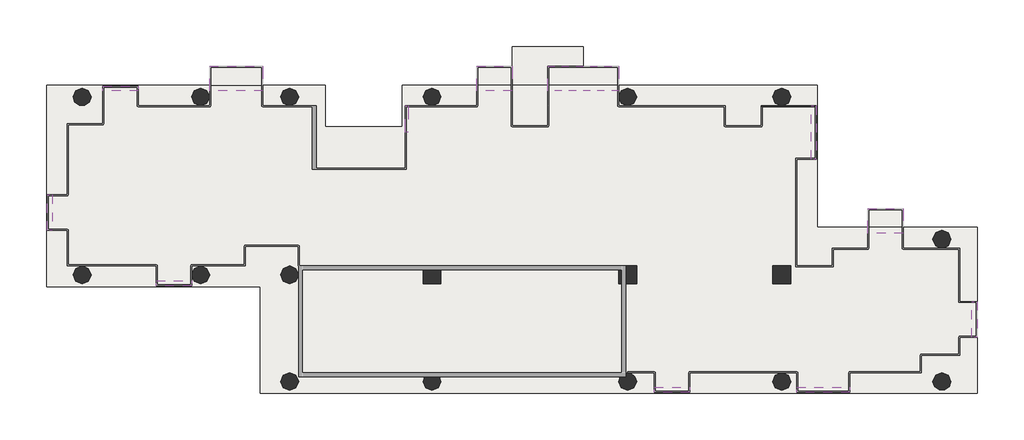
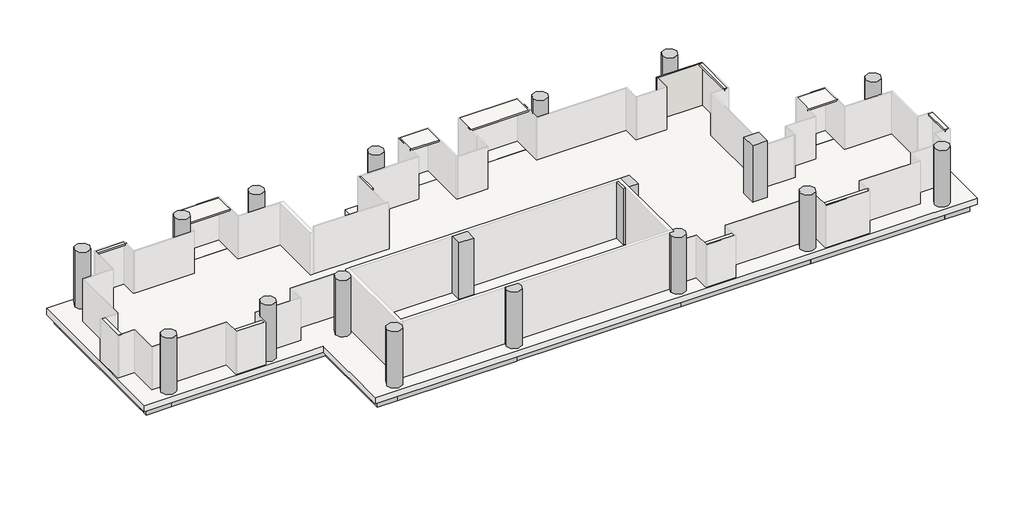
# One storey, part 2 of 2: 40 slabs, 25 beams, 18 columns, 1 wall.
"""IFC4 building model written with IfcOpenShell, lengths in millimetres."""

from ifc_helpers import new_model, si_unit, point, frame, frame_2d, origin, place, context, project, spatial, polyline, circle_curve, trimmed, segment, composite_curve, outline, extrude, faceted_brep, transform, mapped, element, save
from ifc_brep_helpers import plane_surface, cylinder_surface, advanced_brep
from components import ajn_arc_ossature_rec_ba_700x600_5242ffbb, ajn_arc_ossature_rec_ba_700x600_213c05e2, ajn_arc_ossature_rec_ba_700x600_4d623bda, ajn_arc_ossature_rec_ba_700x600_c2a8f1af, ajn_arc_ossature_rec_ba_700x600_b2f97811, ajn_arc_ossature_rec_ba_700x600_e688680c, ajn_arc_ossature_rec_ba_700x600_8adee879, ajn_arc_ossature_rec_ba_700x600_6677e51c, ajn_arc_ossature_rec_ba_700x600_60e35d56, ajn_arc_ossature_rec_ba_700x600_9ae0f913, ajn_arc_ossature_rec_ba_700x600_5c14351b, ajn_arc_ossature_rec_ba_700x600_e883967f, ajn_arc_ossature_rec_ba_700x600_0984b03c, ajn_arc_ossature_rec_ba_700x600_78f846f2, ajn_arc_ossature_rec_ba_700x600_e869caa8, ajn_arc_ossature_rec_ba_700x600_0388eb48, ajn_arc_ossature_rec_ba_700x600_e143517c, ajn_arc_ossature_rec_ba_700x600_758f1bfa, ajn_arc_ossature_rec_ba_700x600_64ba80e1, ajn_arc_poteau_circulaire_232542dc

model = new_model("IFC4")

# Units and contexts
model_context = context("Model", 3, world=origin())
ifc_project = project(units=[si_unit("LENGTHUNIT", "METRE", prefix="MILLI")], contexts=[model_context])

# Site, building, storey
site = spatial("IfcSite", under=ifc_project)
building = spatial("IfcBuilding", under=site)
storey = spatial("IfcBuildingStorey", under=building, Name="TW-L 19", Elevation=67599.9999686)

# Beams
placement = place(None, origin())
ajn_arc_ossature_rec_ba_700x600_shape = ajn_arc_ossature_rec_ba_700x600_5242ffbb(model_context)
element("IfcBeam", 1, ObjectType="AJN-ARC-OSSATURE REC-BA : 700x600", at=placement, inside=storey, context=model_context, shape_type="MappedRepresentation", body=[
    mapped(ajn_arc_ossature_rec_ba_700x600_shape, transform((119350.0, 39300.0, 67049.9999686), x_axis=(-1.0, 0.0, 0.0), y_axis=(0.0, -1.0, 0.0), z_axis=(0.0, 0.0, 1.0))),
])
ajn_arc_ossature_rec_ba_700x600_2_shape = ajn_arc_ossature_rec_ba_700x600_213c05e2(model_context)
element("IfcBeam", 2, ObjectType="AJN-ARC-OSSATURE REC-BA : 700x600", at=placement, inside=storey, context=model_context, shape_type="MappedRepresentation", body=[
    mapped(ajn_arc_ossature_rec_ba_700x600_2_shape, transform((100900.0, 34800.0, 67049.9999686), x_axis=(0.0, -1.0, 0.0), y_axis=(1.0, 0.0, 0.0), z_axis=(0.0, 0.0, 1.0))),
])
ajn_arc_ossature_rec_ba_700x600_3_shape = ajn_arc_ossature_rec_ba_700x600_4d623bda(model_context)
element("IfcBeam", 3, ObjectType="AJN-ARC-OSSATURE REC-BA : 700x600", at=placement, inside=storey, context=model_context, shape_type="MappedRepresentation", body=[
    mapped(ajn_arc_ossature_rec_ba_700x600_3_shape, transform((112150.0, 24900.0, 67049.9999686), x_axis=(1.0, 0.0, 0.0), y_axis=(0.0, 1.0, 0.0), z_axis=(0.0, 0.0, 1.0))),
])
ajn_arc_ossature_rec_ba_700x600_4_shape = ajn_arc_ossature_rec_ba_700x600_c2a8f1af(model_context)
element("IfcBeam", 4, ObjectType="AJN-ARC-OSSATURE REC-BA : 700x600", at=placement, inside=storey, context=model_context, shape_type="MappedRepresentation", body=[
    mapped(ajn_arc_ossature_rec_ba_700x600_4_shape, transform((116200.0, 24900.0, 67049.9999686), x_axis=(1.0, 0.0, 0.0), y_axis=(0.0, 1.0, 0.0), z_axis=(0.0, 0.0, 1.0))),
])
ajn_arc_ossature_rec_ba_700x600_5_shape = ajn_arc_ossature_rec_ba_700x600_b2f97811(model_context)
element("IfcBeam", 5, ObjectType="AJN-ARC-OSSATURE REC-BA : 700x600", at=placement, inside=storey, context=model_context, shape_type="MappedRepresentation", body=[
    mapped(ajn_arc_ossature_rec_ba_700x600_5_shape, transform((106900.0, 30300.0, 67049.9999686), x_axis=(1.0, 0.0, 0.0), y_axis=(0.0, 1.0, 0.0), z_axis=(0.0, 0.0, 1.0))),
])
ajn_arc_ossature_rec_ba_700x600_6_shape = ajn_arc_ossature_rec_ba_700x600_e688680c(model_context)
element("IfcBeam", 6, ObjectType="AJN-ARC-OSSATURE REC-BA : 700x600", at=placement, inside=storey, context=model_context, shape_type="MappedRepresentation", body=[
    mapped(ajn_arc_ossature_rec_ba_700x600_6_shape, transform((111700.0, 27600.0, 67049.9999686), x_axis=(0.0, -1.0, 0.0), y_axis=(1.0, 0.0, 0.0), z_axis=(0.0, 0.0, 1.0))),
])
ajn_arc_ossature_rec_ba_700x600_7_shape = ajn_arc_ossature_rec_ba_700x600_8adee879(model_context)
element("IfcBeam", 7, ObjectType="AJN-ARC-OSSATURE REC-BA : 700x600", at=placement, inside=storey, context=model_context, shape_type="MappedRepresentation", body=[
    mapped(ajn_arc_ossature_rec_ba_700x600_7_shape, transform((124750.0, 24900.0, 67049.9999686), x_axis=(1.0, 0.0, 0.0), y_axis=(0.0, 1.0, 0.0), z_axis=(0.0, 0.0, 1.0))),
])
element("IfcBeam", 8, ObjectType="AJN-ARC-OSSATURE REC-BA : 700x600", at=placement, inside=storey, context=model_context, shape_type="MappedRepresentation", body=[
    mapped(ajn_arc_ossature_rec_ba_700x600_7_shape, transform((124750.0, 39300.0, 67049.9999686), x_axis=(-1.0, 0.0, 0.0), y_axis=(0.0, -1.0, 0.0), z_axis=(0.0, 0.0, 1.0))),
])
ajn_arc_ossature_rec_ba_700x600_8_shape = ajn_arc_ossature_rec_ba_700x600_6677e51c(model_context)
element("IfcBeam", 9, ObjectType="AJN-ARC-OSSATURE REC-BA : 700x600", at=placement, inside=storey, context=model_context, shape_type="MappedRepresentation", body=[
    mapped(ajn_arc_ossature_rec_ba_700x600_8_shape, transform((133600.0, 24900.0, 67049.9999686), x_axis=(1.0, 0.0, 0.0), y_axis=(0.0, 1.0, 0.0), z_axis=(0.0, 0.0, 1.0))),
])
ajn_arc_ossature_rec_ba_700x600_9_shape = ajn_arc_ossature_rec_ba_700x600_60e35d56(model_context)
element("IfcBeam", 10, ObjectType="AJN-ARC-OSSATURE REC-BA : 700x600", at=placement, inside=storey, context=model_context, shape_type="MappedRepresentation", body=[
    mapped(ajn_arc_ossature_rec_ba_700x600_9_shape, transform((141550.0, 24900.0, 67049.9999686), x_axis=(1.0, 0.0, 0.0), y_axis=(0.0, 1.0, 0.0), z_axis=(0.0, 0.0, 1.0))),
])
ajn_arc_ossature_rec_ba_700x600_10_shape = ajn_arc_ossature_rec_ba_700x600_9ae0f913(model_context)
element("IfcBeam", 11, ObjectType="AJN-ARC-OSSATURE REC-BA : 700x600", at=placement, inside=storey, context=model_context, shape_type="MappedRepresentation", body=[
    mapped(ajn_arc_ossature_rec_ba_700x600_10_shape, transform((146200.0, 24900.0, 67049.9999686), x_axis=(1.0, 0.0, 0.0), y_axis=(0.0, 1.0, 0.0), z_axis=(0.0, 0.0, 1.0))),
])
element("IfcBeam", 12, ObjectType="AJN-ARC-OSSATURE REC-BA : 700x600", at=placement, inside=storey, context=model_context, shape_type="MappedRepresentation", body=[
    mapped(ajn_arc_ossature_rec_ba_700x600_10_shape, transform((101500.0, 39300.0, 67049.9999686), x_axis=(-1.0, 0.0, 0.0), y_axis=(0.0, -1.0, 0.0), z_axis=(0.0, 0.0, 1.0))),
])
ajn_arc_ossature_rec_ba_700x600_11_shape = ajn_arc_ossature_rec_ba_700x600_5c14351b(model_context)
element("IfcBeam", 13, ObjectType="AJN-ARC-OSSATURE REC-BA : 700x600", at=placement, inside=storey, context=model_context, shape_type="MappedRepresentation", body=[
    mapped(ajn_arc_ossature_rec_ba_700x600_11_shape, transform((146800.0, 28500.0, 67049.9999686), x_axis=(0.0, 1.0, 0.0), y_axis=(-1.0, 0.0, 0.0), z_axis=(0.0, 0.0, 1.0))),
])
element("IfcBeam", 14, ObjectType="AJN-ARC-OSSATURE REC-BA : 700x600", at=placement, inside=storey, context=model_context, shape_type="MappedRepresentation", body=[
    mapped(ajn_arc_ossature_rec_ba_700x600_11_shape, transform((138700.0, 35700.0, 67049.9999686), x_axis=(0.0, 1.0, 0.0), y_axis=(-1.0, 0.0, 0.0), z_axis=(0.0, 0.0, 1.0))),
])
ajn_arc_ossature_rec_ba_700x600_12_shape = ajn_arc_ossature_rec_ba_700x600_e883967f(model_context)
element("IfcBeam", 15, ObjectType="AJN-ARC-OSSATURE REC-BA : 700x600", at=placement, inside=storey, context=model_context, shape_type="MappedRepresentation", body=[
    mapped(ajn_arc_ossature_rec_ba_700x600_12_shape, transform((146200.0, 32100.0, 67049.9999686), x_axis=(-1.0, 0.0, 0.0), y_axis=(0.0, -1.0, 0.0), z_axis=(0.0, 0.0, 1.0))),
])
element("IfcBeam", 16, ObjectType="AJN-ARC-OSSATURE REC-BA : 700x600", at=placement, inside=storey, context=model_context, shape_type="MappedRepresentation", body=[
    mapped(ajn_arc_ossature_rec_ba_700x600_12_shape, transform((138100.0, 39300.0, 67049.9999686), x_axis=(-1.0, 0.0, 0.0), y_axis=(0.0, -1.0, 0.0), z_axis=(0.0, 0.0, 1.0))),
])
element("IfcBeam", 17, ObjectType="AJN-ARC-OSSATURE REC-BA : 700x600", at=placement, inside=storey, context=model_context, shape_type="MappedRepresentation", body=[
    mapped(ajn_arc_ossature_rec_ba_700x600_12_shape, transform((113200.0, 39300.0, 67049.9999686), x_axis=(-1.0, 0.0, 0.0), y_axis=(0.0, -1.0, 0.0), z_axis=(0.0, 0.0, 1.0))),
])
element("IfcBeam", 18, ObjectType="AJN-ARC-OSSATURE REC-BA : 700x600", at=placement, inside=storey, context=model_context, shape_type="MappedRepresentation", body=[
    mapped(ajn_arc_ossature_rec_ba_700x600_12_shape, transform((101500.0, 30300.0, 67049.9999686), x_axis=(1.0, 0.0, 0.0), y_axis=(0.0, 1.0, 0.0), z_axis=(0.0, 0.0, 1.0))),
])
ajn_arc_ossature_rec_ba_700x600_13_shape = ajn_arc_ossature_rec_ba_700x600_0984b03c(model_context)
element("IfcBeam", 19, ObjectType="AJN-ARC-OSSATURE REC-BA : 700x600", at=placement, inside=storey, context=model_context, shape_type="MappedRepresentation", body=[
    mapped(ajn_arc_ossature_rec_ba_700x600_13_shape, transform((142150.0, 32100.0, 67049.9999686), x_axis=(-1.0, 0.0, 0.0), y_axis=(0.0, -1.0, 0.0), z_axis=(0.0, 0.0, 1.0))),
])
ajn_arc_ossature_rec_ba_700x600_14_shape = ajn_arc_ossature_rec_ba_700x600_78f846f2(model_context)
element("IfcBeam", 20, ObjectType="AJN-ARC-OSSATURE REC-BA : 700x600", at=placement, inside=storey, context=model_context, shape_type="MappedRepresentation", body=[
    mapped(ajn_arc_ossature_rec_ba_700x600_14_shape, transform((133600.0, 39300.0, 67049.9999686), x_axis=(-1.0, 0.0, 0.0), y_axis=(0.0, -1.0, 0.0), z_axis=(0.0, 0.0, 1.0))),
])
ajn_arc_ossature_rec_ba_700x600_15_shape = ajn_arc_ossature_rec_ba_700x600_e869caa8(model_context)
element("IfcBeam", 21, ObjectType="AJN-ARC-OSSATURE REC-BA : 700x600", at=placement, inside=storey, context=model_context, shape_type="MappedRepresentation", body=[
    mapped(ajn_arc_ossature_rec_ba_700x600_15_shape, transform((118900.0, 38250.0, 67049.9999686), x_axis=(0.0, -1.0, 0.0), y_axis=(1.0, 0.0, 0.0), z_axis=(0.0, 0.0, 1.0))),
])
ajn_arc_ossature_rec_ba_700x600_16_shape = ajn_arc_ossature_rec_ba_700x600_0388eb48(model_context)
element("IfcBeam", 22, ObjectType="AJN-ARC-OSSATURE REC-BA : 700x600", at=placement, inside=storey, context=model_context, shape_type="MappedRepresentation", body=[
    mapped(ajn_arc_ossature_rec_ba_700x600_16_shape, transform((110350.0, 39300.0, 67049.9999686), x_axis=(-1.0, 0.0, 0.0), y_axis=(0.0, -1.0, 0.0), z_axis=(0.0, 0.0, 1.0))),
])
ajn_arc_ossature_rec_ba_700x600_17_shape = ajn_arc_ossature_rec_ba_700x600_e143517c(model_context)
element("IfcBeam", 23, ObjectType="AJN-ARC-OSSATURE REC-BA : 700x600", at=placement, inside=storey, context=model_context, shape_type="MappedRepresentation", body=[
    mapped(ajn_arc_ossature_rec_ba_700x600_17_shape, transform((105100.0, 39300.0, 67049.9999686), x_axis=(-1.0, 0.0, 0.0), y_axis=(0.0, -1.0, 0.0), z_axis=(0.0, 0.0, 1.0))),
])
ajn_arc_ossature_rec_ba_700x600_18_shape = ajn_arc_ossature_rec_ba_700x600_758f1bfa(model_context)
element("IfcBeam", 24, ObjectType="AJN-ARC-OSSATURE REC-BA : 700x600", at=placement, inside=storey, context=model_context, shape_type="MappedRepresentation", body=[
    mapped(ajn_arc_ossature_rec_ba_700x600_18_shape, transform((116350.0, 37200.0, 67049.9999686), x_axis=(-1.0, 0.0, 0.0), y_axis=(0.0, -1.0, 0.0), z_axis=(0.0, 0.0, 1.0))),
])
ajn_arc_ossature_rec_ba_700x600_19_shape = ajn_arc_ossature_rec_ba_700x600_64ba80e1(model_context)
element("IfcBeam", 25, ObjectType="AJN-ARC-OSSATURE REC-BA : 700x600", at=placement, inside=storey, context=model_context, shape_type="MappedRepresentation", body=[
    mapped(ajn_arc_ossature_rec_ba_700x600_19_shape, transform((113800.0, 38250.0, 67049.9999686), x_axis=(0.0, 1.0, 0.0), y_axis=(-1.0, 0.0, 0.0), z_axis=(0.0, 0.0, 1.0))),
])

# Columns
element("IfcColumn", 26, ObjectType="AJN-ARC-POTEAU CIRCULAIRE : ø90", at=placement, inside=storey, context=model_context, shape_type="SweptSolid", body=[
    extrude(outline(composite_curve([segment(trimmed(circle_curve(frame_2d((102100.0, 30300.0)), 450.0), [point((101650.0, 30300.0))], [point((102550.0, 30300.0))], False, "CARTESIAN"), True, "CONTINUOUS"), segment(trimmed(circle_curve(frame_2d((102100.0, 30300.0)), 450.0), [point((102550.0, 30300.0))], [point((101650.0, 30300.0))], False, "CARTESIAN"), True, "CONTINUOUS")], self_intersect=False)), frame((0.0, 0.0, 67599.9999686), z_axis=(0.0, 0.0, 1.0), x_axis=(1.0, 0.0, 0.0)), (0.0, 0.0, 1.0), 3600.0),
])
element("IfcColumn", 27, ObjectType="AJN-ARC-POTEAU CIRCULAIRE : ø90", at=placement, inside=storey, context=model_context, shape_type="SweptSolid", body=[
    extrude(outline(composite_curve([segment(trimmed(circle_curve(frame_2d((108100.0, 30300.0)), 450.0), [point((107650.0, 30300.0))], [point((108550.0, 30300.0))], False, "CARTESIAN"), True, "CONTINUOUS"), segment(trimmed(circle_curve(frame_2d((108100.0, 30300.0)), 450.0), [point((108550.0, 30300.0))], [point((107650.0, 30300.0))], False, "CARTESIAN"), True, "CONTINUOUS")], self_intersect=False)), frame((0.0, 0.0, 67599.9999686), z_axis=(0.0, 0.0, 1.0), x_axis=(1.0, 0.0, 0.0)), (0.0, 0.0, 1.0), 3600.0),
])
element("IfcColumn", 28, ObjectType="AJN-ARC-POTEAU CIRCULAIRE : ø90", at=placement, inside=storey, context=model_context, shape_type="SweptSolid", body=[
    extrude(outline(composite_curve([segment(trimmed(circle_curve(frame_2d((108100.0, 39300.0)), 450.0), [point((107650.0, 39300.0))], [point((108550.0, 39300.0))], False, "CARTESIAN"), True, "CONTINUOUS"), segment(trimmed(circle_curve(frame_2d((108100.0, 39300.0)), 450.0), [point((108550.0, 39300.0))], [point((107650.0, 39300.0))], False, "CARTESIAN"), True, "CONTINUOUS")], self_intersect=False)), frame((0.0, 0.0, 67599.9999686), z_axis=(0.0, 0.0, 1.0), x_axis=(1.0, 0.0, 0.0)), (0.0, 0.0, 1.0), 3600.0),
])
element("IfcColumn", 29, ObjectType="AJN-ARC-POTEAU CIRCULAIRE : ø90", at=placement, inside=storey, context=model_context, shape_type="SweptSolid", body=[
    extrude(outline(composite_curve([segment(trimmed(circle_curve(frame_2d((112600.0, 39300.0)), 450.0), [point((112150.0, 39300.0))], [point((113050.0, 39300.0))], False, "CARTESIAN"), True, "CONTINUOUS"), segment(trimmed(circle_curve(frame_2d((112600.0, 39300.0)), 450.0), [point((113050.0, 39300.0))], [point((112150.0, 39300.0))], False, "CARTESIAN"), True, "CONTINUOUS")], self_intersect=False)), frame((0.0, 0.0, 67599.9999686), z_axis=(0.0, 0.0, 1.0), x_axis=(1.0, 0.0, 0.0)), (0.0, 0.0, 1.0), 3600.0),
])
element("IfcColumn", 30, ObjectType="AJN-ARC-POTEAU CIRCULAIRE : ø90", at=placement, inside=storey, context=model_context, shape_type="SweptSolid", body=[
    extrude(outline(composite_curve([segment(trimmed(circle_curve(frame_2d((112600.0, 30300.0)), 450.0), [point((112150.0, 30300.0))], [point((113050.0, 30300.0))], False, "CARTESIAN"), True, "CONTINUOUS"), segment(trimmed(circle_curve(frame_2d((112600.0, 30300.0)), 450.0), [point((113050.0, 30300.0))], [point((112150.0, 30300.0))], False, "CARTESIAN"), True, "CONTINUOUS")], self_intersect=False)), frame((0.0, 0.0, 67599.9999686), z_axis=(0.0, 0.0, 1.0), x_axis=(1.0, 0.0, 0.0)), (0.0, 0.0, 1.0), 3600.0),
])
element("IfcColumn", 31, ObjectType="AJN-ARC-POTEAU CIRCULAIRE : ø90", at=placement, inside=storey, context=model_context, shape_type="SweptSolid", body=[
    extrude(outline(composite_curve([segment(trimmed(circle_curve(frame_2d((112600.0, 24900.0)), 450.0), [point((112150.0, 24900.0))], [point((113050.0, 24900.0))], False, "CARTESIAN"), True, "CONTINUOUS"), segment(trimmed(circle_curve(frame_2d((112600.0, 24900.0)), 450.0), [point((113050.0, 24900.0))], [point((112150.0, 24900.0))], False, "CARTESIAN"), True, "CONTINUOUS")], self_intersect=False)), frame((0.0, 0.0, 67599.9999686), z_axis=(0.0, 0.0, 1.0), x_axis=(1.0, 0.0, 0.0)), (0.0, 0.0, 1.0), 3600.0),
])
element("IfcColumn", 32, ObjectType="AJN-ARC-POTEAU CIRCULAIRE : ø90", at=placement, inside=storey, context=model_context, shape_type="SweptSolid", body=[
    extrude(outline(composite_curve([segment(trimmed(circle_curve(frame_2d((119800.0, 24900.0)), 450.0), [point((120250.0, 24900.0))], [point((119350.0, 24900.0))], False, "CARTESIAN"), True, "CONTINUOUS"), segment(trimmed(circle_curve(frame_2d((119800.0, 24900.0)), 450.0), [point((119350.0, 24900.0))], [point((119425.8342613, 25150.0))], False, "CARTESIAN"), True, "CONTINUOUS"), segment(polyline([(119425.8342613, 25150.0), (120174.1657387, 25150.0)]), True, "CONTINUOUS"), segment(trimmed(circle_curve(frame_2d((119800.0, 24900.0)), 450.0), [point((120174.1657387, 25150.0))], [point((120250.0, 24900.0))], False, "CARTESIAN"), True, "CONTINUOUS")], self_intersect=False)), frame((0.0, 0.0, 67599.9999686), z_axis=(0.0, 0.0, 1.0), x_axis=(1.0, 0.0, 0.0)), (0.0, 0.0, 1.0), 3600.0),
])
element("IfcColumn", 33, ObjectType="AJN-ARC-POTEAU CIRCULAIRE : ø90", at=placement, inside=storey, context=model_context, shape_type="SweptSolid", body=[
    extrude(outline(composite_curve([segment(trimmed(circle_curve(frame_2d((119800.0, 39300.0)), 450.0), [point((119350.0, 39300.0))], [point((120250.0, 39300.0))], False, "CARTESIAN"), True, "CONTINUOUS"), segment(trimmed(circle_curve(frame_2d((119800.0, 39300.0)), 450.0), [point((120250.0, 39300.0))], [point((119350.0, 39300.0))], False, "CARTESIAN"), True, "CONTINUOUS")], self_intersect=False)), frame((0.0, 0.0, 67599.9999686), z_axis=(0.0, 0.0, 1.0), x_axis=(1.0, 0.0, 0.0)), (0.0, 0.0, 1.0), 3600.0),
])
element("IfcColumn", 34, ObjectType="AJN-ARC-POTEAU CIRCULAIRE : ø90", at=placement, inside=storey, context=model_context, shape_type="SweptSolid", body=[
    extrude(outline(composite_curve([segment(trimmed(circle_curve(frame_2d((129700.0, 39300.0)), 450.0), [point((129250.0, 39300.0))], [point((130150.0, 39300.0))], False, "CARTESIAN"), True, "CONTINUOUS"), segment(trimmed(circle_curve(frame_2d((129700.0, 39300.0)), 450.0), [point((130150.0, 39300.0))], [point((129250.0, 39300.0))], False, "CARTESIAN"), True, "CONTINUOUS")], self_intersect=False)), frame((0.0, 0.0, 67599.9999686), z_axis=(0.0, 0.0, 1.0), x_axis=(1.0, 0.0, 0.0)), (0.0, 0.0, 1.0), 3600.0),
])
element("IfcColumn", 35, ObjectType="AJN-ARC-POTEAU CIRCULAIRE : ø90", at=placement, inside=storey, context=model_context, shape_type="SweptSolid", body=[
    extrude(outline(composite_curve([segment(trimmed(circle_curve(frame_2d((129700.0, 24900.0)), 450.0), [point((130150.0, 24900.0))], [point((129250.0, 24900.0))], False, "CARTESIAN"), True, "CONTINUOUS"), segment(trimmed(circle_curve(frame_2d((129700.0, 24900.0)), 450.0), [point((129250.0, 24900.0))], [point((129325.8342613, 25150.0))], False, "CARTESIAN"), True, "CONTINUOUS"), segment(polyline([(129325.8342613, 25150.0), (129600.0, 25150.0), (129600.0, 25338.7482194)]), True, "CONTINUOUS"), segment(trimmed(circle_curve(frame_2d((129700.0, 24900.0)), 450.0), [point((129600.0, 25338.7482194))], [point((130150.0, 24900.0))], False, "CARTESIAN"), True, "CONTINUOUS")], self_intersect=False)), frame((0.0, 0.0, 67599.9999686), z_axis=(0.0, 0.0, 1.0), x_axis=(1.0, 0.0, 0.0)), (0.0, 0.0, 1.0), 3600.0),
])
element("IfcColumn", 36, ObjectType="AJN-ARC-POTEAU CIRCULAIRE : ø90", at=placement, inside=storey, context=model_context, shape_type="SweptSolid", body=[
    extrude(outline(composite_curve([segment(trimmed(circle_curve(frame_2d((137500.0, 39300.0)), 450.0), [point((137050.0, 39300.0))], [point((137950.0, 39300.0))], False, "CARTESIAN"), True, "CONTINUOUS"), segment(trimmed(circle_curve(frame_2d((137500.0, 39300.0)), 450.0), [point((137950.0, 39300.0))], [point((137050.0, 39300.0))], False, "CARTESIAN"), True, "CONTINUOUS")], self_intersect=False)), frame((0.0, 0.0, 67599.9999686), z_axis=(0.0, 0.0, 1.0), x_axis=(1.0, 0.0, 0.0)), (0.0, 0.0, 1.0), 3600.0),
])
element("IfcColumn", 37, ObjectType="AJN-ARC-POTEAU CIRCULAIRE : ø90", at=placement, inside=storey, context=model_context, shape_type="SweptSolid", body=[
    extrude(outline(composite_curve([segment(trimmed(circle_curve(frame_2d((137500.0, 24900.0)), 450.0), [point((137050.0, 24900.0))], [point((137950.0, 24900.0))], False, "CARTESIAN"), True, "CONTINUOUS"), segment(trimmed(circle_curve(frame_2d((137500.0, 24900.0)), 450.0), [point((137950.0, 24900.0))], [point((137050.0, 24900.0))], False, "CARTESIAN"), True, "CONTINUOUS")], self_intersect=False)), frame((0.0, 0.0, 67599.9999686), z_axis=(0.0, 0.0, 1.0), x_axis=(1.0, 0.0, 0.0)), (0.0, 0.0, 1.0), 3600.0),
])
element("IfcColumn", 38, ObjectType="AJN-ARC-POTEAU CIRCULAIRE : ø90", at=placement, inside=storey, context=model_context, shape_type="AdvancedBrep", body=[
    advanced_brep(
    [(145150.0, 32100.0, 67599.9999686), (146050.0, 32100.0, 67599.9999686), (145638.6089983, 31651.6593424, 67599.9999686), (145561.3910017, 31651.6593424, 67599.9999686), (145150.0, 32100.0, 71199.9999686), (146050.0, 32100.0, 71199.9999686), (145561.3910017, 31651.6593424, 70299.9999686), (145638.6089983, 31651.6593424, 70299.9999686)],
    [
        (0, 1, circle_curve(frame((145600.0, 32100.0, 67599.9999686), z_axis=(0.0, 0.0, -1.0), x_axis=(1.0, 0.0, 0.0)), 450.0)),
        (1, 2, circle_curve(frame((145600.0, 32100.0, 67599.9999686), z_axis=(0.0, 0.0, -1.0), x_axis=(1.0, 0.0, 0.0)), 450.0)),
        (2, 3),
        (3, 0, circle_curve(frame((145600.0, 32100.0, 67599.9999686), z_axis=(0.0, 0.0, -1.0), x_axis=(1.0, 0.0, 0.0)), 450.0)),
        (0, 4),
        (4, 5, circle_curve(frame((145600.0, 32100.0, 71199.9999686), z_axis=(0.0, 0.0, -1.0), x_axis=(1.0, 0.0, 0.0)), 450.0)),
        (5, 1),
        (5, 4, circle_curve(frame((145600.0, 32100.0, 71199.9999686), z_axis=(0.0, 0.0, -1.0), x_axis=(1.0, 0.0, 0.0)), 450.0)),
        (3, 6),
        (6, 7, circle_curve(frame((145600.0, 32100.0, 70299.9999686), z_axis=(0.0, 0.0, 1.0), x_axis=(1.0, 0.0, 0.0)), 450.0)),
        (7, 2),
        (7, 6),
    ],
    [
        plane_surface(frame((146050.0, 32100.0, 67599.9999686), z_axis=(0.0, 0.0, -1.0), x_axis=(0.0, -1.0, 0.0))),
        cylinder_surface(frame((145600.0, 32100.0, 67599.9999686), z_axis=(0.0, 0.0, 1.0), x_axis=(1.0, 0.0, 0.0)), 450.0),
        plane_surface(frame((146050.0, 32100.0, 71199.9999686), z_axis=(0.0, 0.0, 1.0), x_axis=(0.0, 1.0, 0.0))),
        plane_surface(frame((146472.681474, 31651.6593424, 67599.9999686), z_axis=(0.0, -1.0, 0.0), x_axis=(-1.0, 0.0, 0.0))),
        plane_surface(frame((143650.0, 31651.6593424, 70299.9999686), z_axis=(0.0, 0.0, -1.0), x_axis=(0.0, -1.0, 0.0))),
    ],
    [
        (0, [[1, 2, 3, 4]]),
        (1, [[-1, 5, 6, 7]]),
        (1, [[-7, 8, -5, -4, 9, 10, 11, -2]]),
        (2, [[-6, -8]]),
        (3, [[12, -9, -3, -11]]),
        (4, [[-12, -10]]),
    ],
),
])
ajn_arc_poteau_circulaire_shape = ajn_arc_poteau_circulaire_232542dc(model_context)
element("IfcColumn", 39, ObjectType="AJN-ARC-POTEAU CIRCULAIRE : ø90", at=placement, inside=storey, context=model_context, shape_type="MappedRepresentation", body=[
    mapped(ajn_arc_poteau_circulaire_shape, transform((102100.0, 39300.0, 0.0), x_axis=(1.0, 0.0, 0.0), y_axis=(0.0, 1.0, 0.0), z_axis=(0.0, 0.0, 1.0))),
])
element("IfcColumn", 40, ObjectType="AJN-ARC-POTEAU CIRCULAIRE : ø90", at=placement, inside=storey, context=model_context, shape_type="MappedRepresentation", body=[
    mapped(ajn_arc_poteau_circulaire_shape, transform((145600.0, 24900.0, 0.0), x_axis=(1.0, 0.0, 0.0), y_axis=(0.0, 1.0, 0.0), z_axis=(0.0, 0.0, 1.0))),
])
element("IfcColumn", 41, ObjectType="AJN-ARC-POTEAU RECTANGULAIRE : 900 mm x 900 mm", at=placement, inside=storey, context=model_context, shape_type="SweptSolid", body=[
    extrude(outline(polyline([(137950.0, 30750.0), (137950.0, 29850.0), (137050.0, 29850.0), (137050.0, 30750.0), (137950.0, 30750.0)])), frame((0.0, 0.0, 67599.9999686), z_axis=(0.0, 0.0, 1.0), x_axis=(1.0, 0.0, 0.0)), (0.0, 0.0, 1.0), 3600.0),
])
element("IfcColumn", 42, ObjectType="AJN-ARC-POTEAU RECTANGULAIRE : 900 mm x 900 mm", at=placement, inside=storey, context=model_context, shape_type="SweptSolid", body=[
    extrude(outline(polyline([(129400.0, 29850.0), (129250.0, 29850.0), (129250.0, 30550.0), (129400.0, 30550.0), (129400.0, 29850.0)])), frame((0.0, 0.0, 67599.9999686), z_axis=(0.0, 0.0, 1.0), x_axis=(1.0, 0.0, 0.0)), (0.0, 0.0, 1.0), 3600.0),
    extrude(outline(polyline([(130150.0, 30750.0), (130150.0, 29850.0), (129600.0, 29850.0), (129600.0, 30750.0), (130150.0, 30750.0)])), frame((0.0, 0.0, 67599.9999686), z_axis=(0.0, 0.0, 1.0), x_axis=(1.0, 0.0, 0.0)), (0.0, 0.0, 1.0), 3600.0),
])
element("IfcColumn", 43, ObjectType="AJN-ARC-POTEAU RECTANGULAIRE : 900 mm x 900 mm", at=placement, inside=storey, context=model_context, shape_type="SweptSolid", body=[
    extrude(outline(polyline([(120250.0, 29850.0), (119350.0, 29850.0), (119350.0, 30550.0), (120250.0, 30550.0), (120250.0, 29850.0)])), frame((0.0, 0.0, 67599.9999686), z_axis=(0.0, 0.0, 1.0), x_axis=(1.0, 0.0, 0.0)), (0.0, 0.0, 1.0), 3600.0),
])

# Slabs
element("IfcSlab", 44, ObjectType="AJN-ARC-SLAB-10cm", at=placement, inside=storey, context=model_context, shape_type="SweptSolid", body=[
    extrude(outline(polyline([(127463.0639015, 39900.0), (123863.0639015, 39900.0), (123863.0639015, 41850.0), (127463.0639015, 41850.0), (127463.0639015, 39900.0)])), frame((0.0, 0.0, 63900.0), z_axis=(0.0, 0.0, 1.0), x_axis=(1.0, 0.0, 0.0)), (0.0, 0.0, 1.0), 100.0),
])
element("IfcSlab", 45, ObjectType="AJN-ARC-SLAB-10cm", at=placement, inside=storey, context=model_context, shape_type="SweptSolid", body=[
    extrude(outline(polyline([(111250.0, 39900.0), (108550.0, 39900.0), (108550.0, 40850.0), (111250.0, 40850.0), (111250.0, 39900.0)])), frame((0.0, 0.0, 67499.9999686), z_axis=(0.0, 0.0, 1.0), x_axis=(1.0, 0.0, 0.0)), (0.0, 0.0, 1.0), 100.0),
])
element("IfcSlab", 46, ObjectType="AJN-ARC-SLAB-10cm", at=placement, inside=storey, context=model_context, shape_type="SweptSolid", body=[
    extrude(outline(polyline([(129250.0, 39900.0), (125650.0, 39900.0), (125650.0, 40850.0), (129250.0, 40850.0), (129250.0, 39900.0)])), frame((0.0, 0.0, 67499.9999686), z_axis=(0.0, 0.0, 1.0), x_axis=(1.0, 0.0, 0.0)), (0.0, 0.0, 1.0), 100.0),
])
element("IfcSlab", 47, ObjectType="AJN-ARC-SLAB-10cm", at=placement, inside=storey, context=model_context, shape_type="SweptSolid", body=[
    extrude(outline(polyline([(143650.0, 32700.0), (141850.0, 32700.0), (141850.0, 33651.6593424), (143650.0, 33651.6593424), (143650.0, 32700.0)])), frame((0.0, 0.0, 67499.9999686), z_axis=(0.0, 0.0, 1.0), x_axis=(1.0, 0.0, 0.0)), (0.0, 0.0, 1.0), 100.0),
])
element("IfcSlab", 48, ObjectType="AJN-ARC-SLAB-10cm", at=placement, inside=storey, context=model_context, shape_type="SweptSolid", body=[
    extrude(outline(polyline([(123860.049155, 39900.0), (122060.049155, 39900.0), (122060.049155, 40850.0), (123860.049155, 40850.0), (123860.049155, 39900.0)])), frame((0.0, 0.0, 67499.9999686), z_axis=(0.0, 0.0, 1.0), x_axis=(1.0, 0.0, 0.0)), (0.0, 0.0, 1.0), 100.0),
])
element("IfcSlab", 49, ObjectType="AJN-ARC-SLAB-10cm", at=placement, inside=storey, context=model_context, shape_type="SweptSolid", body=[
    extrude(outline(polyline([(123860.049155, 39900.0), (122060.049155, 39900.0), (122060.049155, 40850.0), (123860.049155, 40850.0), (123860.049155, 39900.0)])), frame((0.0, 0.0, 67499.9999686), z_axis=(0.0, 0.0, 1.0), x_axis=(1.0, 0.0, 0.0)), (0.0, 0.0, 1.0), 100.0),
])
element("IfcSlab", 50, ObjectType="AJN-ARC-SLAB-10cm", at=placement, inside=storey, context=model_context, shape_type="SweptSolid", body=[
    extrude(outline(polyline([(123860.049155, 39900.0), (122060.049155, 39900.0), (122060.049155, 40850.0), (123860.049155, 40850.0), (123860.049155, 39900.0)])), frame((0.0, 0.0, 67499.9999686), z_axis=(0.0, 0.0, 1.0), x_axis=(1.0, 0.0, 0.0)), (0.0, 0.0, 1.0), 100.0),
])
element("IfcSlab", 51, ObjectType="AJN-ARC-SLAB-10cm", at=placement, inside=storey, context=model_context, shape_type="SweptSolid", body=[
    extrude(outline(polyline([(123860.049155, 39900.0), (122060.049155, 39900.0), (122060.049155, 40850.0), (123860.049155, 40850.0), (123860.049155, 39900.0)])), frame((0.0, 0.0, 67499.9999686), z_axis=(0.0, 0.0, 1.0), x_axis=(1.0, 0.0, 0.0)), (0.0, 0.0, 1.0), 100.0),
])
element("IfcSlab", 52, ObjectType="AJN-ARC-SLAB-10cm", at=placement, inside=storey, context=model_context, shape_type="SweptSolid", body=[
    extrude(outline(polyline([(123860.049155, 39900.0), (122060.049155, 39900.0), (122060.049155, 40850.0), (123860.049155, 40850.0), (123860.049155, 39900.0)])), frame((0.0, 0.0, 67499.9999686), z_axis=(0.0, 0.0, 1.0), x_axis=(1.0, 0.0, 0.0)), (0.0, 0.0, 1.0), 100.0),
])
element("IfcSlab", 53, ObjectType="AJN-ARC-SLAB-10cm", at=placement, inside=storey, context=model_context, shape_type="SweptSolid", body=[
    extrude(outline(polyline([(123860.049155, 39900.0), (122060.049155, 39900.0), (122060.049155, 40850.0), (123860.049155, 40850.0), (123860.049155, 39900.0)])), frame((0.0, 0.0, 67499.9999686), z_axis=(0.0, 0.0, 1.0), x_axis=(1.0, 0.0, 0.0)), (0.0, 0.0, 1.0), 100.0),
])
element("IfcSlab", 54, ObjectType="AJN-ARC-SLAB-10cm", at=placement, inside=storey, context=model_context, shape_type="SweptSolid", body=[
    extrude(outline(polyline([(123860.049155, 39900.0), (122060.049155, 39900.0), (122060.049155, 40850.0), (123860.049155, 40850.0), (123860.049155, 39900.0)])), frame((0.0, 0.0, 67499.9999686), z_axis=(0.0, 0.0, 1.0), x_axis=(1.0, 0.0, 0.0)), (0.0, 0.0, 1.0), 100.0),
])
element("IfcSlab", 55, ObjectType="AJN-ARC-SLAB-10cm", at=placement, inside=storey, context=model_context, shape_type="SweptSolid", body=[
    extrude(outline(polyline([(123860.049155, 39900.0), (122060.049155, 39900.0), (122060.049155, 40850.0), (123860.049155, 40850.0), (123860.049155, 39900.0)])), frame((0.0, 0.0, 67499.9999686), z_axis=(0.0, 0.0, 1.0), x_axis=(1.0, 0.0, 0.0)), (0.0, 0.0, 1.0), 100.0),
])
element("IfcSlab", 56, ObjectType="AJN-ARC-SLAB-10cm", at=placement, inside=storey, context=model_context, shape_type="SweptSolid", body=[
    extrude(outline(polyline([(123860.049155, 39900.0), (122060.049155, 39900.0), (122060.049155, 40850.0), (123860.049155, 40850.0), (123860.049155, 39900.0)])), frame((0.0, 0.0, 67499.9999686), z_axis=(0.0, 0.0, 1.0), x_axis=(1.0, 0.0, 0.0)), (0.0, 0.0, 1.0), 100.0),
])
element("IfcSlab", 57, ObjectType="AJN-ARC-SLAB-10cm", at=placement, inside=storey, context=model_context, shape_type="SweptSolid", body=[
    extrude(outline(polyline([(123860.049155, 39900.0), (122060.049155, 39900.0), (122060.049155, 40850.0), (123860.049155, 40850.0), (123860.049155, 39900.0)])), frame((0.0, 0.0, 67499.9999686), z_axis=(0.0, 0.0, 1.0), x_axis=(1.0, 0.0, 0.0)), (0.0, 0.0, 1.0), 100.0),
])
element("IfcSlab", 58, ObjectType="AJN-ARC-SLAB-10cm", at=placement, inside=storey, context=model_context, shape_type="SweptSolid", body=[
    extrude(outline(polyline([(123860.049155, 39900.0), (122060.049155, 39900.0), (122060.049155, 40850.0), (123860.049155, 40850.0), (123860.049155, 39900.0)])), frame((0.0, 0.0, 67499.9999686), z_axis=(0.0, 0.0, 1.0), x_axis=(1.0, 0.0, 0.0)), (0.0, 0.0, 1.0), 100.0),
])
element("IfcSlab", 59, ObjectType="AJN-ARC-SLAB-10cm", at=placement, inside=storey, context=model_context, shape_type="SweptSolid", body=[
    extrude(outline(polyline([(123860.049155, 39900.0), (122060.049155, 39900.0), (122060.049155, 40850.0), (123860.049155, 40850.0), (123860.049155, 39900.0)])), frame((0.0, 0.0, 67499.9999686), z_axis=(0.0, 0.0, 1.0), x_axis=(1.0, 0.0, 0.0)), (0.0, 0.0, 1.0), 100.0),
])
element("IfcSlab", 60, ObjectType="AJN-ARC-SLAB-10cm", at=placement, inside=storey, context=model_context, shape_type="SweptSolid", body=[
    extrude(outline(polyline([(123860.049155, 39900.0), (122060.049155, 39900.0), (122060.049155, 40850.0), (123860.049155, 40850.0), (123860.049155, 39900.0)])), frame((0.0, 0.0, 67499.9999686), z_axis=(0.0, 0.0, 1.0), x_axis=(1.0, 0.0, 0.0)), (0.0, 0.0, 1.0), 100.0),
])
element("IfcSlab", 61, ObjectType="AJN-ARC-SLAB-10cm", at=placement, inside=storey, context=model_context, shape_type="SweptSolid", body=[
    extrude(outline(polyline([(123860.049155, 39900.0), (122060.049155, 39900.0), (122060.049155, 40850.0), (123860.049155, 40850.0), (123860.049155, 39900.0)])), frame((0.0, 0.0, 67499.9999686), z_axis=(0.0, 0.0, 1.0), x_axis=(1.0, 0.0, 0.0)), (0.0, 0.0, 1.0), 100.0),
])
element("IfcSlab", 62, ObjectType="AJN-ARC-SLAB-10cm", at=placement, inside=storey, context=model_context, shape_type="SweptSolid", body=[
    extrude(outline(polyline([(123860.049155, 39900.0), (122060.049155, 39900.0), (122060.049155, 40850.0), (123860.049155, 40850.0), (123860.049155, 39900.0)])), frame((0.0, 0.0, 67499.9999686), z_axis=(0.0, 0.0, 1.0), x_axis=(1.0, 0.0, 0.0)), (0.0, 0.0, 1.0), 100.0),
])
element("IfcSlab", 63, ObjectType="AJN-ARC-SLAB-10cm", at=placement, inside=storey, context=model_context, shape_type="SweptSolid", body=[
    extrude(outline(polyline([(123860.049155, 39900.0), (122060.049155, 39900.0), (122060.049155, 40850.0), (123860.049155, 40850.0), (123860.049155, 39900.0)])), frame((0.0, 0.0, 67499.9999686), z_axis=(0.0, 0.0, 1.0), x_axis=(1.0, 0.0, 0.0)), (0.0, 0.0, 1.0), 100.0),
])
element("IfcSlab", 64, ObjectType="AJN-ARC-SLAB-10cm", at=placement, inside=storey, context=model_context, shape_type="SweptSolid", body=[
    extrude(outline(polyline([(118600.0, 37500.0), (118450.0, 37500.0), (118450.0, 38850.0), (118600.0, 38850.0), (118600.0, 37500.0)])), frame((0.0, 0.0, 70199.9999686), z_axis=(0.0, 0.0, 1.0), x_axis=(1.0, 0.0, 0.0)), (0.0, 0.0, 1.0), 100.0),
])
element("IfcSlab", 65, ObjectType="AJN-ARC-SLAB-10cm", at=placement, inside=storey, context=model_context, shape_type="SweptSolid", body=[
    extrude(outline(polyline([(107647.1743518, 29750.0), (105847.1743518, 29750.0), (105847.1743518, 30000.0), (107647.1743518, 30000.0), (107647.1743518, 29750.0)])), frame((0.0, 0.0, 70199.9999686), z_axis=(0.0, 0.0, 1.0), x_axis=(1.0, 0.0, 0.0)), (0.0, 0.0, 1.0), 100.0),
])
element("IfcSlab", 66, ObjectType="AJN-ARC-SLAB-10cm", at=placement, inside=storey, context=model_context, shape_type="SweptSolid", body=[
    extrude(outline(polyline([(111250.0, 39600.0), (108550.0, 39600.0), (108550.0, 40850.0), (111250.0, 40850.0), (111250.0, 39600.0)])), frame((0.0, 0.0, 70199.9999686), z_axis=(0.0, 0.0, 1.0), x_axis=(1.0, 0.0, 0.0)), (0.0, 0.0, 1.0), 100.0),
])
element("IfcSlab", 67, ObjectType="AJN-ARC-SLAB-10cm", at=placement, inside=storey, context=model_context, shape_type="SweptSolid", body=[
    extrude(outline(polyline([(100600.0, 32550.0), (100347.1743518, 32550.0), (100347.1743518, 34350.0), (100600.0, 34350.0), (100600.0, 32550.0)])), frame((0.0, 0.0, 70199.9999686), z_axis=(0.0, 0.0, 1.0), x_axis=(1.0, 0.0, 0.0)), (0.0, 0.0, 1.0), 100.0),
])
element("IfcSlab", 68, ObjectType="AJN-ARC-SLAB-10cm", at=placement, inside=storey, context=model_context, shape_type="SweptSolid", body=[
    extrude(outline(polyline([(129250.0, 39600.0), (125650.0, 39600.0), (125650.0, 40850.0), (129250.0, 40850.0), (129250.0, 39600.0)])), frame((0.0, 0.0, 70199.9999686), z_axis=(0.0, 0.0, 1.0), x_axis=(1.0, 0.0, 0.0)), (0.0, 0.0, 1.0), 100.0),
])
element("IfcSlab", 69, ObjectType="AJN-ARC-SLAB-10cm", at=placement, inside=storey, context=model_context, shape_type="SweptSolid", body=[
    extrude(outline(polyline([(143650.0, 32400.0), (141850.0, 32400.0), (141850.0, 33651.6593424), (143650.0, 33651.6593424), (143650.0, 32400.0)])), frame((0.0, 0.0, 70199.9999686), z_axis=(0.0, 0.0, 1.0), x_axis=(1.0, 0.0, 0.0)), (0.0, 0.0, 1.0), 100.0),
])
element("IfcSlab", 70, ObjectType="AJN-ARC-SLAB-10cm", at=placement, inside=storey, context=model_context, shape_type="SweptSolid", body=[
    extrude(outline(polyline([(104950.0, 39600.0), (103150.0, 39600.0), (103150.0, 39850.0), (104950.0, 39850.0), (104950.0, 39600.0)])), frame((0.0, 0.0, 70199.9999686), z_axis=(0.0, 0.0, 1.0), x_axis=(1.0, 0.0, 0.0)), (0.0, 0.0, 1.0), 100.0),
])
element("IfcSlab", 71, ObjectType="AJN-ARC-SLAB-10cm", at=placement, inside=storey, context=model_context, shape_type="SweptSolid", body=[
    extrude(outline(polyline([(140950.1449327, 24350.0), (138250.1449327, 24350.0), (138250.1449327, 24600.0), (140950.1449327, 24600.0), (140950.1449327, 24350.0)])), frame((0.0, 0.0, 70199.9999686), z_axis=(0.0, 0.0, 1.0), x_axis=(1.0, 0.0, 0.0)), (0.0, 0.0, 1.0), 100.0),
])
element("IfcSlab", 72, ObjectType="AJN-ARC-SLAB-10cm", at=placement, inside=storey, context=model_context, shape_type="SweptSolid", body=[
    extrude(outline(polyline([(132850.3663867, 24350.0), (131050.3663867, 24350.0), (131050.3663867, 24600.0), (132850.3663867, 24600.0), (132850.3663867, 24350.0)])), frame((0.0, 0.0, 70199.9999686), z_axis=(0.0, 0.0, 1.0), x_axis=(1.0, 0.0, 0.0)), (0.0, 0.0, 1.0), 100.0),
])
element("IfcSlab", 73, ObjectType="AJN-ARC-SLAB-10cm", at=placement, inside=storey, context=model_context, shape_type="SweptSolid", body=[
    extrude(outline(polyline([(147397.681474, 27148.986399), (147100.0, 27148.986399), (147100.0, 28948.986399), (147397.681474, 28948.986399), (147397.681474, 27148.986399)])), frame((0.0, 0.0, 70199.9999686), z_axis=(0.0, 0.0, 1.0), x_axis=(1.0, 0.0, 0.0)), (0.0, 0.0, 1.0), 100.0),
])
element("IfcSlab", 74, ObjectType="AJN-ARC-SLAB-10cm", at=placement, inside=storey, context=model_context, shape_type="SweptSolid", body=[
    extrude(outline(polyline([(123860.049155, 39600.0), (122060.049155, 39600.0), (122060.049155, 40850.0), (123860.049155, 40850.0), (123860.049155, 39600.0)])), frame((0.0, 0.0, 70199.9999686), z_axis=(0.0, 0.0, 1.0), x_axis=(1.0, 0.0, 0.0)), (0.0, 0.0, 1.0), 100.0),
])
element("IfcSlab", 75, ObjectType="AJN-ARC-SLAB-10cm", at=placement, inside=storey, context=model_context, shape_type="SweptSolid", body=[
    extrude(outline(polyline([(139250.0, 36150.0), (139000.0, 36150.0), (139000.0, 38850.0), (139250.0, 38850.0), (139250.0, 36150.0)])), frame((0.0, 0.0, 70199.9999686), z_axis=(0.0, 0.0, 1.0), x_axis=(1.0, 0.0, 0.0)), (0.0, 0.0, 1.0), 100.0),
])
element("IfcSlab", 76, ObjectType="AJN-ARC-SLAB-10cm", at=placement, inside=storey, context=model_context, shape_type="SweptSolid", body=[
    extrude(outline(polyline([(139250.0, 36150.0), (139000.0, 36150.0), (139000.0, 38850.0), (139250.0, 38850.0), (139250.0, 36150.0)])), frame((0.0, 0.0, 70199.9999686), z_axis=(0.0, 0.0, 1.0), x_axis=(1.0, 0.0, 0.0)), (0.0, 0.0, 1.0), 100.0),
])
element("IfcSlab", 77, ObjectType="AJN-ARC-SLAB-10cm", at=placement, inside=storey, context=model_context, shape_type="SweptSolid", body=[
    extrude(outline(polyline([(139250.0, 36150.0), (139000.0, 36150.0), (139000.0, 38850.0), (139250.0, 38850.0), (139250.0, 36150.0)])), frame((0.0, 0.0, 70199.9999686), z_axis=(0.0, 0.0, 1.0), x_axis=(1.0, 0.0, 0.0)), (0.0, 0.0, 1.0), 100.0),
])
element("IfcSlab", 78, ObjectType="AJN-ARC-SLAB-10cm", at=placement, inside=storey, context=model_context, shape_type="SweptSolid", body=[
    extrude(outline(polyline([(139250.0, 36150.0), (139000.0, 36150.0), (139000.0, 38850.0), (139250.0, 38850.0), (139250.0, 36150.0)])), frame((0.0, 0.0, 70199.9999686), z_axis=(0.0, 0.0, 1.0), x_axis=(1.0, 0.0, 0.0)), (0.0, 0.0, 1.0), 100.0),
])
element("IfcSlab", 79, ObjectType="AJN-ARC-SLAB-10cm", at=placement, inside=storey, context=model_context, shape_type="SweptSolid", body=[
    extrude(outline(polyline([(139250.0, 36150.0), (139000.0, 36150.0), (139000.0, 38850.0), (139250.0, 38850.0), (139250.0, 36150.0)])), frame((0.0, 0.0, 70199.9999686), z_axis=(0.0, 0.0, 1.0), x_axis=(1.0, 0.0, 0.0)), (0.0, 0.0, 1.0), 100.0),
])
element("IfcSlab", 80, ObjectType="AJN-ARC-SLAB-10cm", at=placement, inside=storey, context=model_context, shape_type="SweptSolid", body=[
    extrude(outline(polyline([(139250.0, 36150.0), (139000.0, 36150.0), (139000.0, 38850.0), (139250.0, 38850.0), (139250.0, 36150.0)])), frame((0.0, 0.0, 70199.9999686), z_axis=(0.0, 0.0, 1.0), x_axis=(1.0, 0.0, 0.0)), (0.0, 0.0, 1.0), 100.0),
])
element("IfcSlab", 81, ObjectType="AJN-ARC-SLAB-10cm", at=placement, inside=storey, context=model_context, shape_type="SweptSolid", body=[
    extrude(outline(polyline([(139250.0, 36150.0), (139000.0, 36150.0), (139000.0, 38850.0), (139250.0, 38850.0), (139250.0, 36150.0)])), frame((0.0, 0.0, 70199.9999686), z_axis=(0.0, 0.0, 1.0), x_axis=(1.0, 0.0, 0.0)), (0.0, 0.0, 1.0), 100.0),
])
element("IfcSlab", 82, ObjectType="AJN-ARC-SLAB-10cm", at=placement, inside=storey, context=model_context, shape_type="SweptSolid", body=[
    extrude(outline(polyline([(139250.0, 36150.0), (139000.0, 36150.0), (139000.0, 38850.0), (139250.0, 38850.0), (139250.0, 36150.0)])), frame((0.0, 0.0, 70199.9999686), z_axis=(0.0, 0.0, 1.0), x_axis=(1.0, 0.0, 0.0)), (0.0, 0.0, 1.0), 100.0),
])
element("IfcSlab", 83, ObjectType="AJN-ARC-SLAB-40cm", at=placement, inside=storey, context=model_context, shape_type="SweptSolid", body=[
    extrude(outline(polyline([(147400.0, 24300.0), (111100.0, 24300.0), (111100.0, 29700.0), (100300.0, 29700.0), (100300.0, 39900.0), (114400.0, 39900.0), (114400.0, 37800.0), (118300.0, 37800.0), (118300.0, 39900.0), (139300.0, 39900.0), (139300.0, 32700.0), (147400.0, 32700.0), (147400.0, 24300.0)])), frame((0.0, 0.0, 67199.9999686), z_axis=(0.0, 0.0, 1.0), x_axis=(1.0, 0.0, 0.0)), (0.0, 0.0, 1.0), 400.0),
])

# Wall
element("IfcWall", 84, ObjectType="AJN-ARC-GLASS-50mm", at=placement, inside=storey, context=model_context, shape_type="Brep", body=[
    faceted_brep([(139200.0, 38850.0, 67599.9999686), (136450.0, 38850.0, 67599.9999686), (136450.0, 38850.0, 70299.9999686), (139200.0, 38850.0, 70299.9999686), (139200.0, 38800.0, 67599.9999686), (139200.0, 38800.0, 70299.9999686), (136500.0, 38800.0, 70299.9999686), (136450.0, 38800.0, 70299.9999686), (136450.0, 38800.0, 67599.9999686), (136500.0, 38800.0, 67599.9999686)], [[[0, 1, 2, 3]], [[4, 5, 6, 7, 8, 9]], [[1, 0, 4, 9, 8]], [[3, 2, 7, 6, 5]], [[2, 1, 8, 7]], [[0, 3, 5, 4]]]),
])

save(model, "model.ifc")
